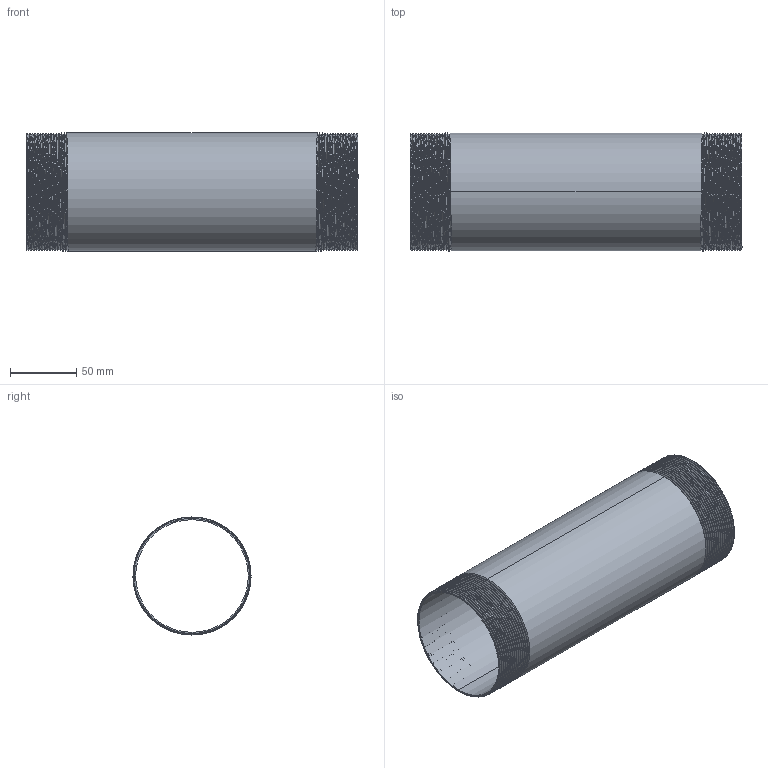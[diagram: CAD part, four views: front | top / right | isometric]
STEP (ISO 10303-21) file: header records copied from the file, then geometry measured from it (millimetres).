
FILE_DESCRIPTION (( 'STEP AP203' ), '1' );
FILE_NAME ('3D_R210_3x250_17148690.STEP', '2024-08-16T10:25:57', ( '' ), ( '' ), 'SwSTEP 2.0', 'SolidWorks 2024', '' );
FILE_SCHEMA (( 'CONFIG_CONTROL_DESIGN' ));
Length unit declared in the file: millimetre
Products named in the file (1): 3D_R210_3x250_17148690
Bounding box: 250 x 88.87 x 88.9 mm (x, y, z)
Volume: 125796.9 mm3; surface area: 146696.1 mm2
Topology: 1 solids, 1 shells, 80 faces, 228 edges, 150 vertices
Faces by surface type: cone 66, bspline 6, cylinder 4, plane 4
Entity records: 16579 total; most frequent: CARTESIAN_POINT 14717, ORIENTED_EDGE 456, DIRECTION 248, EDGE_CURVE 228, VERTEX_POINT 150, B_SPLINE_CURVE_WITH_KNOTS 134, AXIS2_PLACEMENT_3D 87, EDGE_LOOP 82
